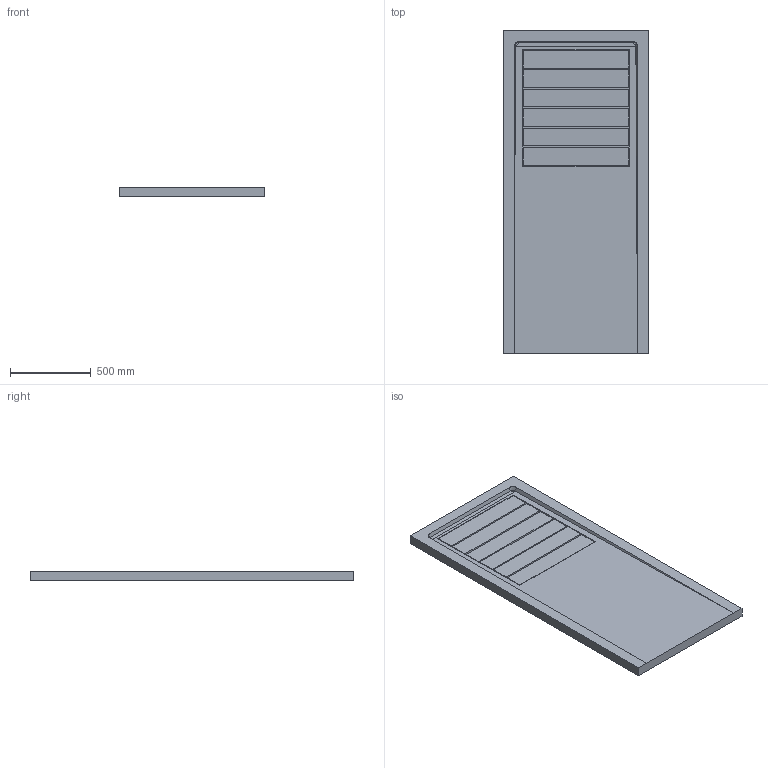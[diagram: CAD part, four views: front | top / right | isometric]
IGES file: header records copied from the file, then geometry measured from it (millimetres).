
Global section: file name: D:\Desktop\GIOVANNI\SCHEDE PRODOTTO\PIATTI DOCCIA\TOLOMEO\3D\MOMA DESIGN_PIATTI DOCCIA_TOLOMEO+SLATS.igs; native system: Rhinoceros ( Jan 17 2018 ); preprocessor: Trout Lake IGES 012 Jan 17 2018; date: 230524.131235; units: millimetre
Bounding box: 900 x 2000 x 60 mm (x, y, z)
Surface area: 3267352.7 mm2 (no closed solid volume)
Topology: 0 solids, 0 shells, 55 faces, 232 edges, 226 vertices
Faces by surface type: bspline 55
